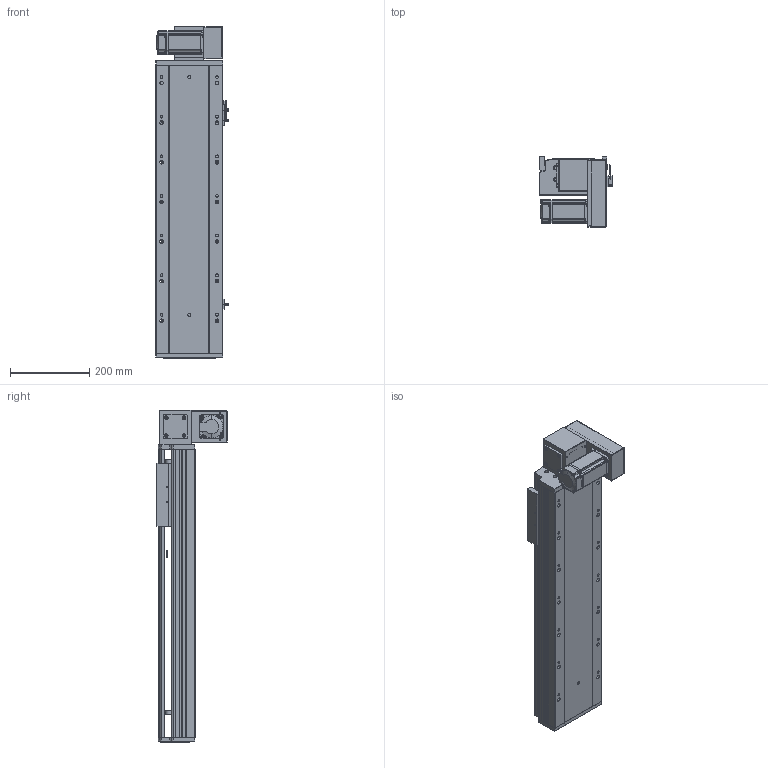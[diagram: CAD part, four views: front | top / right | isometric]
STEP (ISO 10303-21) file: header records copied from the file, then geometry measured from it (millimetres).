
FILE_DESCRIPTION (( 'STEP AP203' ), '1' );
FILE_NAME ('RY170-T-300-DR-P400W.SLDASM_450.step', '2021-03-01T08:22:45', ( '盈信电脑' ), ( '东莞市道滘镇水果街19号' ), 'SwSTEP 2.0', 'SolidWorks 2012', '' );
FILE_SCHEMA (( 'CONFIG_CONTROL_DESIGN' ));
Length unit declared in the file: millimetre
Products named in the file (19): RY170-T-300-DR-P400W.SLDASM_450; 15; RY170-T-呴雄粣揤踡啣; RY170-T蹟翐M4; RY170-T肮祭謫裔啣; 滅袉蝶18-10; RY120-T主同步轮轴承压盖; RY170同步轮电机安装板(400W); RY170-T肮祭湍揤踡輸1; RY170-T肮祭湍揤踡輸2; RY170肮祭謫萇儂欶; RY170肮祭謫ヶ裔啣; RY170外置感应片(200共用）; RY170翋肮祭謫釱; RY170肮祭湍臏賑輸; RY170綴裔啣; 覜茼ん672; RY170-T-300肮祭謫倰第裔啣-DR_450; RY170-T-300肮祭謫倰第菁釱-DR_450
Assembly tree (23 placements, depth 2):
  RY170-T-300-DR-P400W.SLDASM_450
    RY170-T-300肮祭謫倰第菁釱-DR_450
    RY170肮祭湍臏賑輸
    RY170-T-300肮祭謫倰第裔啣-DR_450
    RY170綴裔啣
    覜茼ん672  x3
    RY170外置感应片(200共用）
    RY170肮祭謫ヶ裔啣
    RY170翋肮祭謫釱
    RY170同步轮电机安装板(400W)
    RY170肮祭謫萇儂欶
    RY170-T肮祭湍揤踡輸1  x2
    RY170-T肮祭湍揤踡輸2  x2
    RY120-T主同步轮轴承压盖
    RY170-T肮祭謫裔啣
    RY170-T蹟翐M4
    滅袉蝶18-10  x2
    RY170-T-呴雄粣揤踡啣
    15
Bounding box: 183.7 x 178 x 838 mm (x, y, z)
Volume: 4614575.7 mm3; surface area: 1534435.8 mm2
Topology: 23 solids, 23 shells, 2674 faces, 7418 edges, 4787 vertices
Faces by surface type: plane 1264, cylinder 1180, cone 200, bspline 30
Entity records: 79645 total; most frequent: CARTESIAN_POINT 17617, ORIENTED_EDGE 12616, DIRECTION 12396, EDGE_CURVE 6308, AXIS2_PLACEMENT_3D 4336, VERTEX_POINT 4143, LINE 3724, VECTOR 3724
